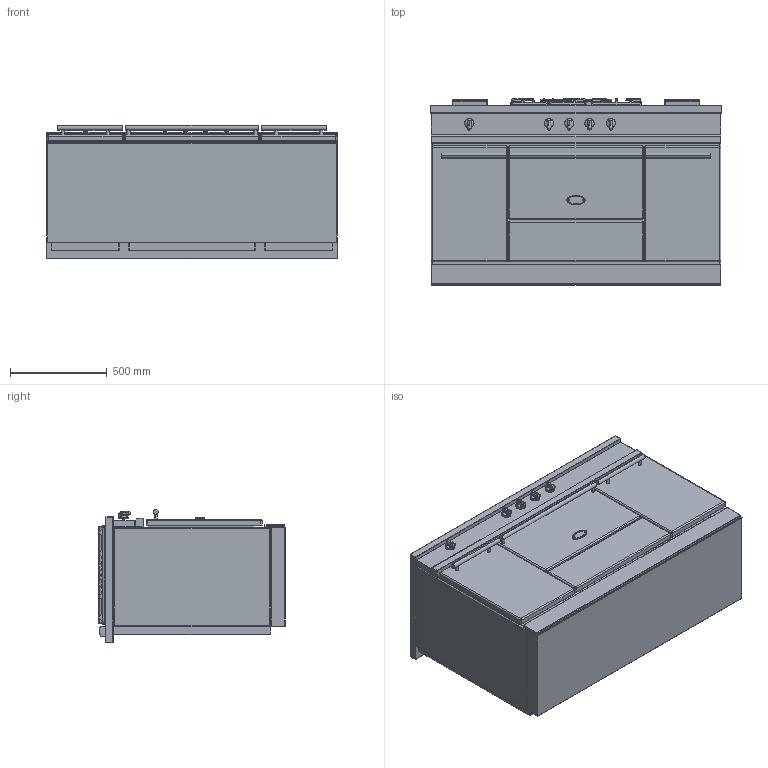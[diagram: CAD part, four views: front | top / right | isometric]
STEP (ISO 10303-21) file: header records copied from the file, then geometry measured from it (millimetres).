
FILE_DESCRIPTION((''),'2;1');
FILE_NAME('LMG1532_ASM','2022-04-13T11:30:31',('stagiaire'),(''),'CREO PARAMETRIC BY PTC INC, 2021424','CREO PARAMETRIC BY PTC INC, 2021424','');
FILE_SCHEMA(('AP203_CONFIGURATION_CONTROLLED_3D_DESIGN_OF_MECHANICAL_PARTS_AND_ASSEMBLIES_MIM_LF { 1 0 10303 403 2 1 2 }'));
Products named in the file (20): BASE_EXPORT_FONTENAY_LMG1531; 65049009; 65650001; 65064012; 19150009; 88064012_ASM; BASE_EXPORT_CITEAUX_LMG1532_ASM; TABLE_1505_CLASSIQUE_3_FEUX; 5KW; 1_5KW; 3KW; 6537025; 65149005; 90000488_ASM; 6537023; 90000565_ASM; CHEMINEE_2020_LG182_EXPORT_STEP; CHEMINEE_2020_LG371_EXPORT_STEP; TABLE_1505_CLASSIQUE_3_FEUX_ASM; LMG1532_ASM
Assembly tree (32 placements, depth 4):
  LMG1532_ASM
    BASE_EXPORT_CITEAUX_LMG1532_ASM
      BASE_EXPORT_FONTENAY_LMG1531
      65049009
      65650001
      88064012_ASM  x5
        65064012
        19150009
    TABLE_1505_CLASSIQUE_3_FEUX_ASM
      TABLE_1505_CLASSIQUE_3_FEUX
      5KW
      1_5KW
      3KW
      90000488_ASM  x2
        6537025
        65149005
      90000565_ASM
        6537023
        65149005  x4
      CHEMINEE_2020_LG182_EXPORT_STEP  x2
      CHEMINEE_2020_LG371_EXPORT_STEP
Bounding box: 1505 x 965 x 688.5 mm (x, y, z)
Volume: 548337570.5 mm3; surface area: 13154833.2 mm2
Topology: 39 solids, 39 shells, 4521 faces, 12338 edges, 7869 vertices
Faces by surface type: cylinder 1565, plane 1394, bspline 929, sphere 260, cone 216, torus 135, extrusion 22
Entity records: 139060 total; most frequent: CARTESIAN_POINT 47869, ORIENTED_EDGE 14930, DIRECTION 13695, EDGE_CURVE 7465, AXIS2_PLACEMENT_3D 4596, VERTEX_POINT 4534, VECTOR 4448, LINE 4426
